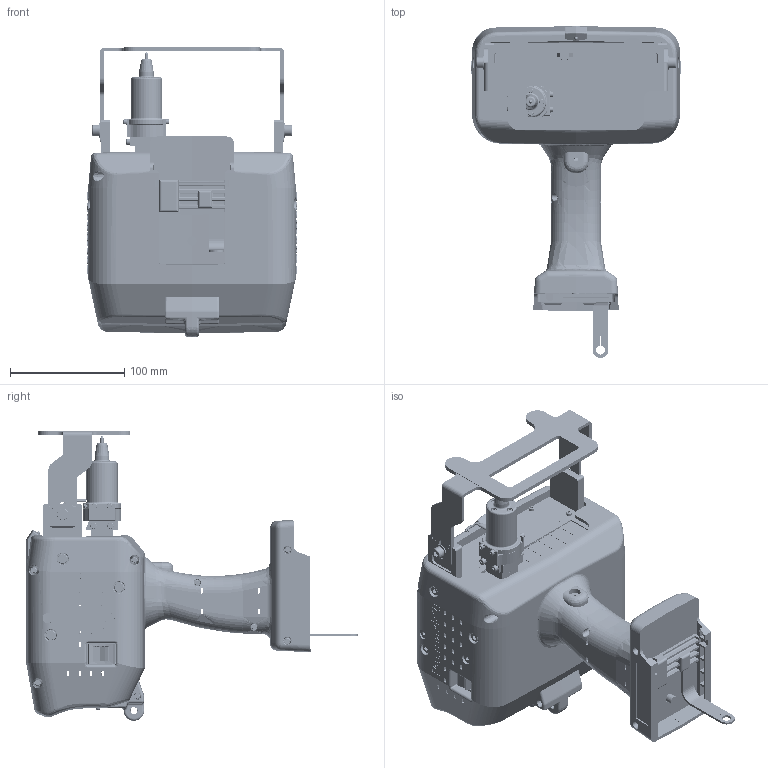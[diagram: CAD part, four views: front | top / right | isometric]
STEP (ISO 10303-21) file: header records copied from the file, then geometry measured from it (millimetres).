
FILE_DESCRIPTION (( 'STEP AP203' ), '1' );
FILE_NAME ('Patmark2-plus v1 -A AC.STEP', '2026-07-09T00:14:18', ( '' ), ( '' ), 'SwSTEP 2.0', 'SolidWorks 2023', '' );
FILE_SCHEMA (( 'CONFIG_CONTROL_DESIGN' ));
Length unit declared in the file: millimetre
Products named in the file (63): cap25_6; TCT-00151-31 01 右カバー(PM2-plus); TCQ-K3-02098G-17 v2 シャッター6; cap5_12 SUS; TCQ-G-00001-4 v2 ピンホルダー; TCQ-K3-02098G-10 v2 シャッターレール後; cap3_6; TCQ-K3-02098G-06 v1 X軸センサ取付板; XAP-02V-1 プラグハウジング; cap25_10 SUS; PC2664-3R MB3-4-IN INRET基板; SW25; バッテリー端子; TCQ-K3-02098G-21 v2 打刻ガイドプレート; TCQ-G-00001-5 v3 ソレノイドカバー; TCQ-K3-02098G-08 v2 底板; 140000600181 取付枠(SUS板); TCQ-K3-02098G-14 v2 シャッター3; 8HD1011-Z ロッカースイッチ; TCT-00151-34 04 ブラケット取付棒(PM2-plus); NB25_3 SUS; TCQ-K3-02700G-24 ナット受板; cap25_6 SUS; TCQ-G-00001-H3  SOLケーブル; 140000340129 取付枠(樹脂); capw6_10 SUS; TCQ-G-00007-01 v1 ソレノイド取付板; TCQ-K3-02098G-09 v2 シャッターレール前; XARR-02V リセプタクルハウジング; TCQ-K3-02098G-12 v2 シャッター1; sara2_5; Patmark-plus ソレノイドブロック v1 PM-pぅs3D用; TCT-00151-35 04 ブラケット取付棒(PM2-plus); cap25_12 SUS; TCQ-G-00001-30 LEDカバー; sara25_12; TCQ-K3-02098G-16 v2 シャッター5; TCQ-K3-02700G-5B ピン(超硬); TCQ-K3-02098G-13 v2 シャッター2; TCQ-G-00001-9 フッ素ゴムワッシャ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
Assembly tree (110 placements, depth 3):
  Patmark2-plus v1 -A AC
    TCT-00087-1 v1 アルミフレーム (DC) 04
    TCQ-K3-02098G-06 v1 X軸センサ取付板
    TCQ-K3-02098G-08 v2 底板
    TCQ-K3-02098G-09 v2 シャッターレール前
    TCQ-K3-02098G-10 v2 シャッターレール後
    TCQ-K3-02098G-21 v2 打刻ガイドプレート
    TCQ-K3-02098G-22 v1 すべり止めゴム
    TCQ-K3-02098G-29 v1 ナットホルダー
    TCQ-K3-02700G-17 X軸ベルト押え
    TCQ-K3-02700G-23 連結板押え
    TCQ-K3-02700G-24 ナット受板
    cap25_6  x2
    cap25_6 SUS  x4
    cap25_10 SUS  x2
    cap3_6  x3
    capw6_10 SUS  x2
    NB25_3 SUS  x2
    NB2_5  x3
    sara2_5  x2
    sara25_5 SUS  x7
    sara25_12  x4
    E3  x2
    XARR-02V リセプタクルハウジング
    XAP-02V-1 プラグハウジング
    TCQ-K3-02098G-12 v2 シャッター1
    TCQ-K3-02098G-13 v2 シャッター2
    TCQ-K3-02098G-14 v2 シャッター3
    TCQ-K3-02098G-15 v2 シャッター4
    TCQ-K3-02098G-16 v2 シャッター5
    TCQ-K3-02098G-17 v2 シャッター6
    Patmark-plus ソレノイドブロック v1 PM-pぅs3D用
      TCQ-G-00001-4 v2 ピンホルダー
      TCQ-G-00001-5 v3 ソレノイドカバー
      TCQ-G-00001-6 スペーサー
      TCQ-G-00001-9 フッ素ゴムワッシャ
      TCQ-G-00003-09 v2 ボビン押えねじ
      TCQ-G-00007-01 v1 ソレノイド取付板
      TCQ-K3-02700G-5B ピン(超硬)
      TCQ-G-00001-H3  SOLケーブル
      cap25_10 SUS
      caps25_5 SUS  x4
      cap25_6 SUS  x4
      SW25  x4
      caps3_8 SUS  x4
    TCQ-G-00001-30 LEDカバー
    TCQ-G-00001-31 USBキャップ_ﾊﾞﾝﾄﾞ付-1
    TCQ-G-00001-32 バッテリーキャップ
    PC2664-3R MB3-4-IN INRET基板
    PC2664-3R LED LED基板
    OSW54K3131A 白色LED
    バッテリー端子
    8HD1011-Z ロッカースイッチ
      140000600181 取付枠(SUS板)
      140000340129 取付枠(樹脂)
      8HD1011-Z ロッカースイッチ
      140000480596 ロッカー
    TCT-00151-31 01 右カバー(PM2-plus)
    TCT-00151-32 01 左カバー(PM2-plus)
    cap25_12 SUS  x8
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Bounding box: 183.6 x 290.9 x 254 mm (x, y, z)
Volume: 787374.8 mm3; surface area: 548547.2 mm2
Topology: 132 solids, 132 shells, 6674 faces, 17055 edges, 10914 vertices
Faces by surface type: plane 3411, cylinder 1588, cone 853, bspline 687, torus 88, sphere 47
Entity records: 208347 total; most frequent: CARTESIAN_POINT 68071, ORIENTED_EDGE 28984, DIRECTION 25045, EDGE_CURVE 14492, VERTEX_POINT 9372, VECTOR 8797, LINE 8797, AXIS2_PLACEMENT_3D 8124
